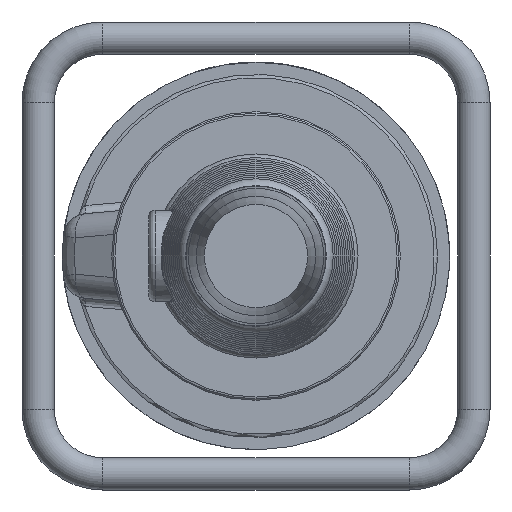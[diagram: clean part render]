
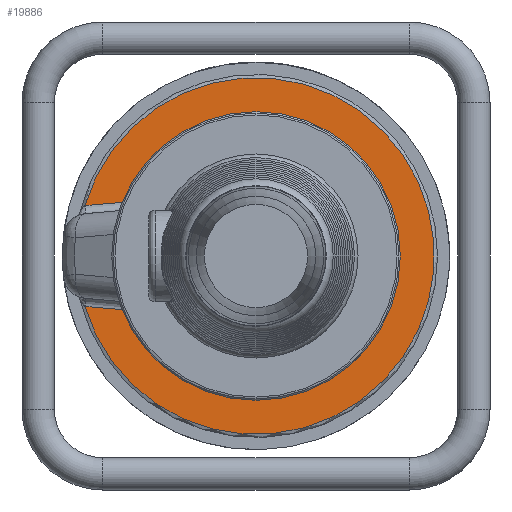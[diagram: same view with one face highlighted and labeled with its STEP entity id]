
A CAD part, left-side view. The second image highlights one B-rep face of the part: STEP entity #19886.
In plain terms, the highlighted planar face has unit normal (-1, 0, 0).
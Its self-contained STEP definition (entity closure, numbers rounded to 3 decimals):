
#989=PLANE('',#21258);
#2929=LINE('',#44586,#4053);
#2930=LINE('',#44590,#4054);
#4053=VECTOR('',#25102,10.);
#4054=VECTOR('',#25105,10.);
#5144=FACE_OUTER_BOUND('',#6297,.T.);
#6297=EDGE_LOOP('',(#17042,#17043,#17044,#17045));
#7030=CIRCLE('',#21259,110.5);
#7031=CIRCLE('',#21260,74.);
#8946=VERTEX_POINT('',#44584);
#8947=VERTEX_POINT('',#44585);
#8948=VERTEX_POINT('',#44587);
#8949=VERTEX_POINT('',#44589);
#11668=EDGE_CURVE('',#8946,#8947,#2929,.T.);
#11669=EDGE_CURVE('',#8948,#8946,#7030,.T.);
#11670=EDGE_CURVE('',#8949,#8948,#2930,.T.);
#11671=EDGE_CURVE('',#8949,#8947,#7031,.T.);
#17042=ORIENTED_EDGE('',*,*,#11668,.F.);
#17043=ORIENTED_EDGE('',*,*,#11669,.F.);
#17044=ORIENTED_EDGE('',*,*,#11670,.F.);
#17045=ORIENTED_EDGE('',*,*,#11671,.T.);
#19886=ADVANCED_FACE('',(#5144),#989,.T.);
#21258=AXIS2_PLACEMENT_3D('',#44583,#25100,#25101);
#21259=AXIS2_PLACEMENT_3D('',#44588,#25103,#25104);
#21260=AXIS2_PLACEMENT_3D('',#44591,#25106,#25107);
#25100=DIRECTION('center_axis',(-1.,0.,0.));
#25101=DIRECTION('ref_axis',(0.,0.,
1.));
#25102=DIRECTION('',(0.,-0.996,-0.087));
#25103=DIRECTION('center_axis',(1.,0.,0.));
#25104=DIRECTION('ref_axis',(0.,-1.,0.));
#25105=DIRECTION('',(0.,0.996,-0.087));
#25106=DIRECTION('center_axis',(1.,0.,0.));
#25107=DIRECTION('ref_axis',(0.,-1.,0.));
#44583=CARTESIAN_POINT('Origin',(-20.,-92.25,0.));
#44584=CARTESIAN_POINT('',(-20.,105.991,-31.245));
#44585=CARTESIAN_POINT('',(-20.,65.304,-34.804));
#44586=CARTESIAN_POINT('',(-20.,0.632,-40.462));
#44587=CARTESIAN_POINT('',(-20.,105.991,31.245));
#44588=CARTESIAN_POINT('Origin',(-20.,0.,
0.));
#44589=CARTESIAN_POINT('',(-20.,65.304,34.804));
#44590=CARTESIAN_POINT('',(-20.,0.632,40.462));
#44591=CARTESIAN_POINT('Origin',(-20.,0.,
0.));
